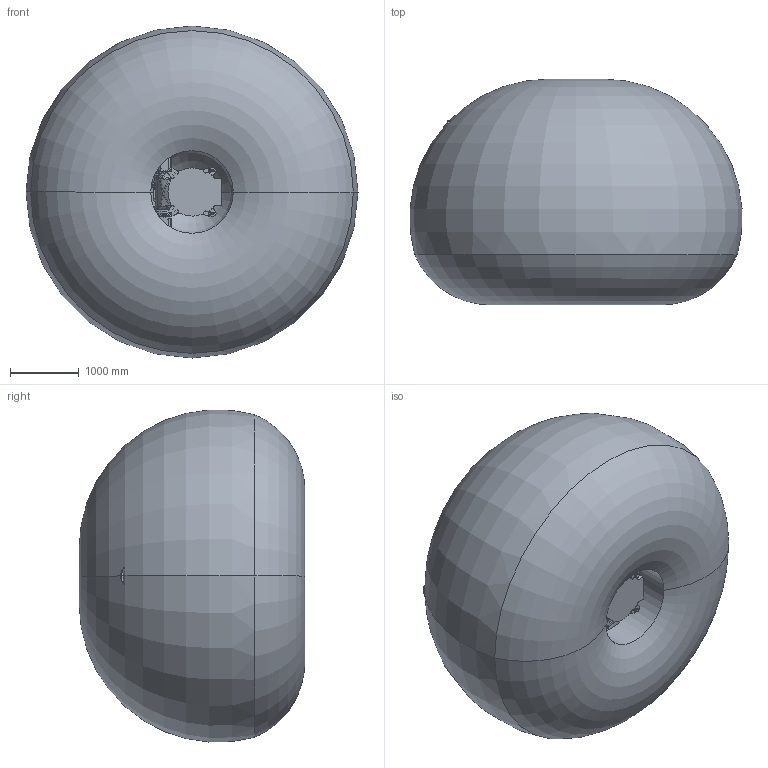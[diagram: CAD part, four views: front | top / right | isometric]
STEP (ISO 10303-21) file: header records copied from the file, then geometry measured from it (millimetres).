
FILE_DESCRIPTION (( 'STEP AP214' ), '1' );
FILE_NAME ('SMART-5 NJ4-220-2.4 (3D-STEP).STEP', '2010-11-29T11:10:03', ( '' ), ( '' ), 'SwSTEP 2.0', 'SolidWorks 2007', '' );
FILE_SCHEMA (( 'AUTOMOTIVE_DESIGN' ));
Length unit declared in the file: millimetre
Products named in the file (17): SMART-5 NJ4-220-2.4_p04; SMART-5 NJ4-220-2.4_p03; SMART-5 NJ4-220-2.4_p02; SMART-5 NJ4-220-2.4_p01; SMART-5 NJ4-220-2.4_p05; SMART-5 NJ4-220-2.4_p11; SMART-5 NJ4-220-2.4_p10; SMART-5 NJ4-220-2.4_p06; SMART-5 NJ4-220-2.4_CR82350080_SM; SMART-5 NJ4-220-2.4_p09; SMART-5 NJ4-220-2.4_p08; SMART-5 NJ4-220-2.4_p07; SMART-5 NJ4-220-2.4_CR82350050_SM; SMART-5 NJ4-220-2.4_CR82350090_SM; Operation Area NJ4-220 2.4; SMART-5 NJ4-220-2.4_CR82350051_SM; SMART-5 NJ4-220-2.4 (3D-STEP)
Assembly tree (18 placements, depth 2):
  SMART-5 NJ4-220-2.4 (3D-STEP)
    Operation Area NJ4-220 2.4
    SMART-5 NJ4-220-2.4_p05
    SMART-5 NJ4-220-2.4_CR82350080_SM
    SMART-5 NJ4-220-2.4_CR82350050_SM
    SMART-5 NJ4-220-2.4_CR82350051_SM  x2
    SMART-5 NJ4-220-2.4_p07
    SMART-5 NJ4-220-2.4_p01
    SMART-5 NJ4-220-2.4_p06
    SMART-5 NJ4-220-2.4_p03
    SMART-5 NJ4-220-2.4_p08
    SMART-5 NJ4-220-2.4_p02
    SMART-5 NJ4-220-2.4_p04
    SMART-5 NJ4-220-2.4_p09
    SMART-5 NJ4-220-2.4_p11
    SMART-5 NJ4-220-2.4_CR82350090_SM  x2
    SMART-5 NJ4-220-2.4_p10
Bounding box: 4826.32 x 3281.49 x 4826.32 mm (x, y, z)
Volume: 41058431904.6 mm3; surface area: 89555366.7 mm2
Topology: 18 solids, 44 shells, 4776 faces, 12721 edges, 8242 vertices
Faces by surface type: plane 2022, cylinder 1916, bspline 466, cone 237, torus 124, sphere 11
Entity records: 197226 total; most frequent: CARTESIAN_POINT 74610, ORIENTED_EDGE 24144, DIRECTION 22103, EDGE_CURVE 12072, AXIS2_PLACEMENT_3D 7986, VERTEX_POINT 7904, VECTOR 6131, LINE 6131
